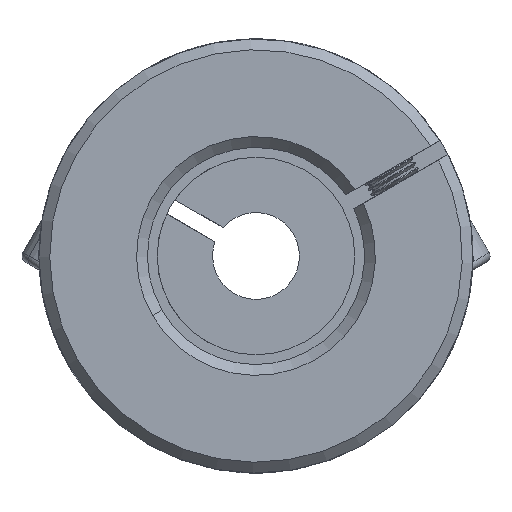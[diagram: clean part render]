
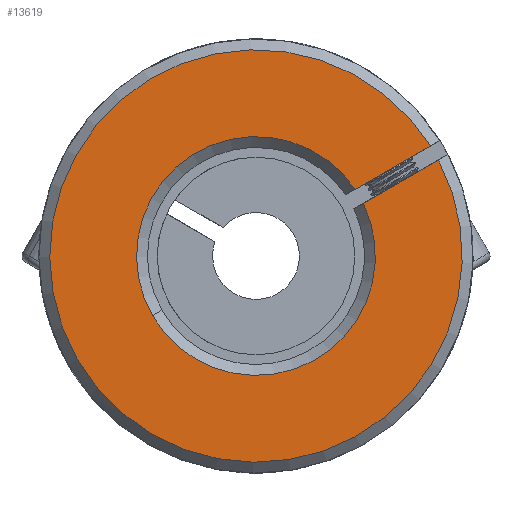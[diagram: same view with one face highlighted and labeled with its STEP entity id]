
A CAD part, front view. The second image highlights one B-rep face of the part: STEP entity #13619.
In plain terms, the highlighted planar face has unit normal (0, -1, 0).
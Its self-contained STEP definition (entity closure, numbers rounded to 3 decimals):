
#593 = CARTESIAN_POINT ( 'NONE',  ( -1.447, -31.239, 40. ) ) ;
#769 = LINE ( 'NONE', #4861, #6192 ) ;
#802 = ORIENTED_EDGE ( 'NONE', *, *, #7859, .T. ) ;
#828 = VERTEX_POINT ( 'NONE', #995 ) ;
#848 = CARTESIAN_POINT ( 'NONE',  ( -1.447, -31.239, 40. ) ) ;
#995 = CARTESIAN_POINT ( 'NONE',  ( 15.367, -31.239, 48.848 ) ) ;
#1711 = CARTESIAN_POINT ( 'NONE',  ( -1.447, -31.239, 40. ) ) ;
#2193 = AXIS2_PLACEMENT_3D ( 'NONE', #3035, #2895, #11632 ) ;
#2574 = ORIENTED_EDGE ( 'NONE', *, *, #5625, .F. ) ;
#2856 = DIRECTION ( 'NONE',  ( 0., 1., 0. ) ) ;
#2895 = DIRECTION ( 'NONE',  ( 0., 1., 0. ) ) ;
#3035 = CARTESIAN_POINT ( 'NONE',  ( 52.98, -31.239, 45.743 ) ) ;
#3131 = EDGE_CURVE ( 'NONE', #5489, #828, #8954, .T. ) ;
#3635 = EDGE_CURVE ( 'NONE', #5084, #10767, #3879, .T. ) ;
#3869 = DIRECTION ( 'NONE',  ( 0.866, 0., 0.5 ) ) ;
#3879 = CIRCLE ( 'NONE', #13243, 11. ) ;
#4688 = VECTOR ( 'NONE', #11509, 1000. ) ;
#4861 = CARTESIAN_POINT ( 'NONE',  ( 7.562, -31.239, 44.339 ) ) ;
#4958 = EDGE_LOOP ( 'NONE', ( #2574, #802, #5295, #7373, #6505 ) ) ;
#5023 = DIRECTION ( 'NONE',  ( 0.5, 0., -0.866 ) ) ;
#5084 = VERTEX_POINT ( 'NONE', #13359 ) ;
#5295 = ORIENTED_EDGE ( 'NONE', *, *, #3635, .T. ) ;
#5489 = VERTEX_POINT ( 'NONE', #5777 ) ;
#5625 = EDGE_CURVE ( 'NONE', #8234, #828, #769, .T. ) ;
#5777 = CARTESIAN_POINT ( 'NONE',  ( 14.616, -31.239, 50.147 ) ) ;
#5850 = CIRCLE ( 'NONE', #11862, 11. ) ;
#6192 = VECTOR ( 'NONE', #3869, 1000. ) ;
#6505 = ORIENTED_EDGE ( 'NONE', *, *, #3131, .T. ) ;
#7086 = DIRECTION ( 'NONE',  ( 0.5, 0., -0.866 ) ) ;
#7373 = ORIENTED_EDGE ( 'NONE', *, *, #13077, .F. ) ;
#7859 = EDGE_CURVE ( 'NONE', #8234, #5084, #5850, .T. ) ;
#8060 = DIRECTION ( 'NONE',  ( 0.5, 0., -0.866 ) ) ;
#8234 = VERTEX_POINT ( 'NONE', #13245 ) ;
#8285 = CARTESIAN_POINT ( 'NONE',  ( 7.68, -31.239, 46.14 ) ) ;
#8773 = AXIS2_PLACEMENT_3D ( 'NONE', #848, #13790, #5023 ) ;
#8954 = CIRCLE ( 'NONE', #8773, 19. ) ;
#9234 = DIRECTION ( 'NONE',  ( 0., 1., 0. ) ) ;
#10767 = VERTEX_POINT ( 'NONE', #8285 ) ;
#11080 = FACE_OUTER_BOUND ( 'NONE', #4958, .T. ) ;
#11423 = LINE ( 'NONE', #12538, #4688 ) ;
#11509 = DIRECTION ( 'NONE',  ( -0.866, 0., -0.5 ) ) ;
#11632 = DIRECTION ( 'NONE',  ( 0.5, 0., -0.866 ) ) ;
#11862 = AXIS2_PLACEMENT_3D ( 'NONE', #1711, #2856, #7086 ) ;
#12538 = CARTESIAN_POINT ( 'NONE',  ( 6.812, -31.239, 45.638 ) ) ;
#13077 = EDGE_CURVE ( 'NONE', #5489, #10767, #11423, .T. ) ;
#13243 = AXIS2_PLACEMENT_3D ( 'NONE', #593, #9234, #8060 ) ;
#13245 = CARTESIAN_POINT ( 'NONE',  ( 8.431, -31.239, 44.841 ) ) ;
#13359 = CARTESIAN_POINT ( 'NONE',  ( -10.971, -31.239, 34.497 ) ) ;
#13619 = ADVANCED_FACE ( 'NONE', ( #11080 ), #13689, .F. ) ;
#13689 = PLANE ( 'NONE',  #2193 ) ;
#13790 = DIRECTION ( 'NONE',  ( 0., -1., 0. ) ) ;
